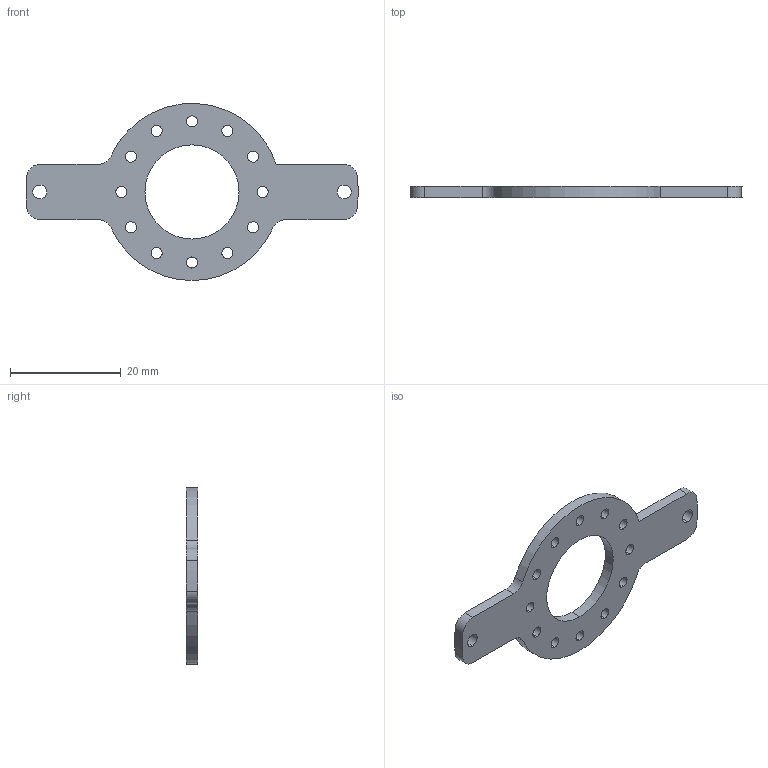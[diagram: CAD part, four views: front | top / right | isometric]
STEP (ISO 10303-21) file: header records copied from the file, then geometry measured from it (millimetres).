
FILE_DESCRIPTION(/* description */ (''),/* implementation_level */ '2;1');
FILE_NAME(/* name */ 'CWC-CY0014-P99_Encoder Bracket.stp',/* time_stamp */ '2026-02-19T09:39:44+01:00',/* author */ (''),/* organization */ (''),/* preprocessor_version */ 'ST-DEVELOPER v18.1',/* originating_system */ 'SIEMENS PLM Software NX 1988',/* authorisation */ '');
FILE_SCHEMA (('AUTOMOTIVE_DESIGN { 1 0 10303 214 3 1 1 1 }'));
Length unit declared in the file: millimetre
Products named in the file (1): anto80DCB5E9lja3
Bounding box: 59.97 x 2 x 31.98 mm (x, y, z)
Volume: 1619.4 mm3; surface area: 2215.2 mm2
Topology: 1 solids, 1 shells, 48 faces, 138 edges, 92 vertices
Faces by surface type: cylinder 42, plane 6
Entity records: 1718 total; most frequent: DIRECTION 320, CARTESIAN_POINT 279, ORIENTED_EDGE 276, EDGE_CURVE 138, AXIS2_PLACEMENT_3D 133, VERTEX_POINT 92, CIRCLE 84, EDGE_LOOP 78
